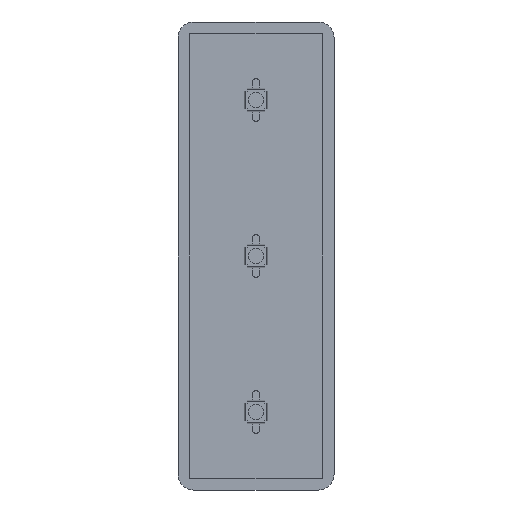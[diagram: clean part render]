
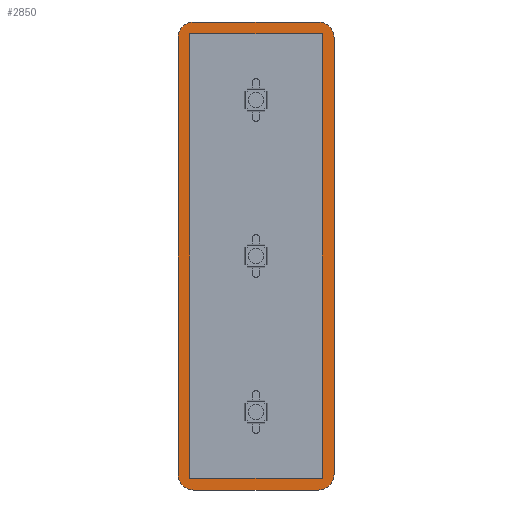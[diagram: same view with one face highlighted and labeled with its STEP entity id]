
A CAD part, front view. The second image highlights one B-rep face of the part: STEP entity #2850.
In plain terms, the highlighted planar face has unit normal (0, -1, 0).
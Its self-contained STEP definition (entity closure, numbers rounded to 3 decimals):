
#31 = DIRECTION ( 'NONE',  ( 0., -1., 0. ) ) ;
#56 = EDGE_LOOP ( 'NONE', ( #3401, #2921, #494, #3235 ) ) ;
#125 = EDGE_CURVE ( 'NONE', #2628, #1711, #1547, .T. ) ;
#129 = CARTESIAN_POINT ( 'NONE',  ( 0., 0., -4. ) ) ;
#138 = EDGE_CURVE ( 'NONE', #222, #584, #2629, .T. ) ;
#139 = EDGE_LOOP ( 'NONE', ( #183, #3032, #2314, #2305, #2675, #2323, #429, #1891 ) ) ;
#183 = ORIENTED_EDGE ( 'NONE', *, *, #701, .F. ) ;
#215 = DIRECTION ( 'NONE',  ( 0., 0., -1. ) ) ;
#222 = VERTEX_POINT ( 'NONE', #3143 ) ;
#302 = CARTESIAN_POINT ( 'NONE',  ( 0., 0., -120. ) ) ;
#361 = VERTEX_POINT ( 'NONE', #1472 ) ;
#362 = CARTESIAN_POINT ( 'NONE',  ( 0., 0., 0. ) ) ;
#392 = CARTESIAN_POINT ( 'NONE',  ( 37., 0., -117. ) ) ;
#427 = DIRECTION ( 'NONE',  ( 0., 0., -1. ) ) ;
#429 = ORIENTED_EDGE ( 'NONE', *, *, #1746, .F. ) ;
#433 = EDGE_CURVE ( 'NONE', #3375, #1362, #3438, .T. ) ;
#494 = ORIENTED_EDGE ( 'NONE', *, *, #125, .F. ) ;
#584 = VERTEX_POINT ( 'NONE', #3461 ) ;
#596 = DIRECTION ( 'NONE',  ( -1., 0., 0. ) ) ;
#670 = VECTOR ( 'NONE', #215, 1000. ) ;
#692 = AXIS2_PLACEMENT_3D ( 'NONE', #1507, #3122, #1042 ) ;
#697 = CARTESIAN_POINT ( 'NONE',  ( 36., 0., -116. ) ) ;
#701 = EDGE_CURVE ( 'NONE', #2115, #1362, #2464, .T. ) ;
#750 = CARTESIAN_POINT ( 'NONE',  ( 3., 0., -117. ) ) ;
#752 = DIRECTION ( 'NONE',  ( 0., -1., 0. ) ) ;
#788 = AXIS2_PLACEMENT_3D ( 'NONE', #1703, #916, #2555 ) ;
#892 = DIRECTION ( 'NONE',  ( 1., 0., 0. ) ) ;
#902 = DIRECTION ( 'NONE',  ( 0., 0., 1. ) ) ;
#908 = EDGE_CURVE ( 'NONE', #2878, #2468, #2228, .T. ) ;
#916 = DIRECTION ( 'NONE',  ( 0., -1., 0. ) ) ;
#1006 = DIRECTION ( 'NONE',  ( 0., 0., 1. ) ) ;
#1042 = DIRECTION ( 'NONE',  ( 0., 0., -1. ) ) ;
#1047 = LINE ( 'NONE', #1781, #3115 ) ;
#1097 = DIRECTION ( 'NONE',  ( 0., 0., -1. ) ) ;
#1201 = CARTESIAN_POINT ( 'NONE',  ( 0., 0., 0. ) ) ;
#1225 = CARTESIAN_POINT ( 'NONE',  ( 36., 0., -120. ) ) ;
#1240 = CIRCLE ( 'NONE', #1573, 4. ) ;
#1252 = AXIS2_PLACEMENT_3D ( 'NONE', #3159, #3410, #2894 ) ;
#1302 = CIRCLE ( 'NONE', #1252, 4. ) ;
#1362 = VERTEX_POINT ( 'NONE', #3309 ) ;
#1410 = VECTOR ( 'NONE', #2542, 1000. ) ;
#1420 = EDGE_CURVE ( 'NONE', #2115, #584, #1240, .T. ) ;
#1472 = CARTESIAN_POINT ( 'NONE',  ( 3., 0., -3. ) ) ;
#1507 = CARTESIAN_POINT ( 'NONE',  ( 4., 0., -4. ) ) ;
#1547 = LINE ( 'NONE', #1866, #2136 ) ;
#1573 = AXIS2_PLACEMENT_3D ( 'NONE', #697, #752, #427 ) ;
#1617 = FACE_OUTER_BOUND ( 'NONE', #139, .T. ) ;
#1703 = CARTESIAN_POINT ( 'NONE',  ( 4., 0., -116. ) ) ;
#1711 = VERTEX_POINT ( 'NONE', #3011 ) ;
#1746 = EDGE_CURVE ( 'NONE', #3375, #3037, #2757, .T. ) ;
#1781 = CARTESIAN_POINT ( 'NONE',  ( 3., 0., -3. ) ) ;
#1817 = DIRECTION ( 'NONE',  ( 1., 0., 0. ) ) ;
#1866 = CARTESIAN_POINT ( 'NONE',  ( 37., 0., -3. ) ) ;
#1891 = ORIENTED_EDGE ( 'NONE', *, *, #433, .T. ) ;
#1904 = PLANE ( 'NONE',  #2544 ) ;
#2115 = VERTEX_POINT ( 'NONE', #1225 ) ;
#2136 = VECTOR ( 'NONE', #1006, 1000. ) ;
#2228 = LINE ( 'NONE', #362, #2876 ) ;
#2305 = ORIENTED_EDGE ( 'NONE', *, *, #3151, .T. ) ;
#2314 = ORIENTED_EDGE ( 'NONE', *, *, #138, .F. ) ;
#2323 = ORIENTED_EDGE ( 'NONE', *, *, #3155, .T. ) ;
#2367 = DIRECTION ( 'NONE',  ( 0., 0., -1. ) ) ;
#2420 = CARTESIAN_POINT ( 'NONE',  ( 36., 0., 0. ) ) ;
#2434 = CARTESIAN_POINT ( 'NONE',  ( 4., 0., 0. ) ) ;
#2464 = LINE ( 'NONE', #2730, #2531 ) ;
#2468 = VERTEX_POINT ( 'NONE', #2420 ) ;
#2531 = VECTOR ( 'NONE', #596, 1000. ) ;
#2541 = VECTOR ( 'NONE', #1817, 1000. ) ;
#2542 = DIRECTION ( 'NONE',  ( -1., 0., 0. ) ) ;
#2544 = AXIS2_PLACEMENT_3D ( 'NONE', #302, #31, #1097 ) ;
#2555 = DIRECTION ( 'NONE',  ( 0., 0., -1. ) ) ;
#2601 = CARTESIAN_POINT ( 'NONE',  ( 3., 0., -117. ) ) ;
#2619 = EDGE_CURVE ( 'NONE', #1711, #361, #2810, .T. ) ;
#2628 = VERTEX_POINT ( 'NONE', #392 ) ;
#2629 = LINE ( 'NONE', #2897, #670 ) ;
#2675 = ORIENTED_EDGE ( 'NONE', *, *, #908, .F. ) ;
#2697 = EDGE_CURVE ( 'NONE', #361, #2734, #1047, .T. ) ;
#2730 = CARTESIAN_POINT ( 'NONE',  ( 0., 0., -120. ) ) ;
#2734 = VERTEX_POINT ( 'NONE', #2601 ) ;
#2757 = LINE ( 'NONE', #1201, #2814 ) ;
#2785 = EDGE_CURVE ( 'NONE', #2734, #2628, #2882, .T. ) ;
#2810 = LINE ( 'NONE', #2830, #1410 ) ;
#2814 = VECTOR ( 'NONE', #902, 1000. ) ;
#2830 = CARTESIAN_POINT ( 'NONE',  ( 3., 0., -3. ) ) ;
#2850 = ADVANCED_FACE ( 'NONE', ( #2967, #1617 ), #1904, .T. ) ;
#2876 = VECTOR ( 'NONE', #892, 1000. ) ;
#2878 = VERTEX_POINT ( 'NONE', #2434 ) ;
#2882 = LINE ( 'NONE', #750, #2541 ) ;
#2894 = DIRECTION ( 'NONE',  ( 0., 0., -1. ) ) ;
#2897 = CARTESIAN_POINT ( 'NONE',  ( 40., 0., 0. ) ) ;
#2921 = ORIENTED_EDGE ( 'NONE', *, *, #2619, .F. ) ;
#2967 = FACE_BOUND ( 'NONE', #56, .T. ) ;
#3011 = CARTESIAN_POINT ( 'NONE',  ( 37., 0., -3. ) ) ;
#3021 = CARTESIAN_POINT ( 'NONE',  ( 0., 0., -116. ) ) ;
#3032 = ORIENTED_EDGE ( 'NONE', *, *, #1420, .T. ) ;
#3037 = VERTEX_POINT ( 'NONE', #129 ) ;
#3115 = VECTOR ( 'NONE', #2367, 1000. ) ;
#3122 = DIRECTION ( 'NONE',  ( 0., -1., 0. ) ) ;
#3143 = CARTESIAN_POINT ( 'NONE',  ( 40., 0., -4. ) ) ;
#3151 = EDGE_CURVE ( 'NONE', #222, #2468, #1302, .T. ) ;
#3155 = EDGE_CURVE ( 'NONE', #2878, #3037, #3234, .T. ) ;
#3159 = CARTESIAN_POINT ( 'NONE',  ( 36., 0., -4. ) ) ;
#3234 = CIRCLE ( 'NONE', #692, 4. ) ;
#3235 = ORIENTED_EDGE ( 'NONE', *, *, #2785, .F. ) ;
#3309 = CARTESIAN_POINT ( 'NONE',  ( 4., 0., -120. ) ) ;
#3375 = VERTEX_POINT ( 'NONE', #3021 ) ;
#3401 = ORIENTED_EDGE ( 'NONE', *, *, #2697, .F. ) ;
#3410 = DIRECTION ( 'NONE',  ( 0., -1., 0. ) ) ;
#3438 = CIRCLE ( 'NONE', #788, 4. ) ;
#3461 = CARTESIAN_POINT ( 'NONE',  ( 40., 0., -116. ) ) ;
